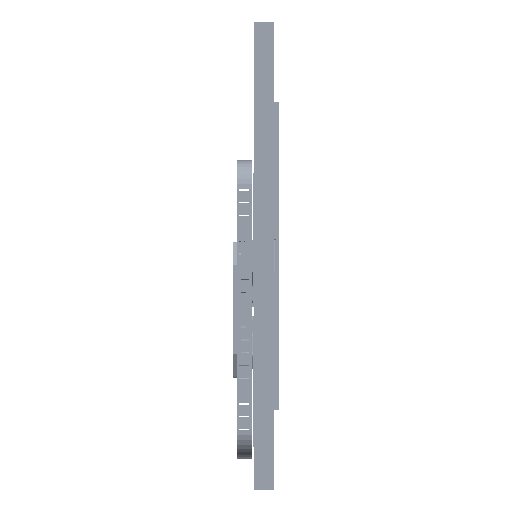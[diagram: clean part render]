
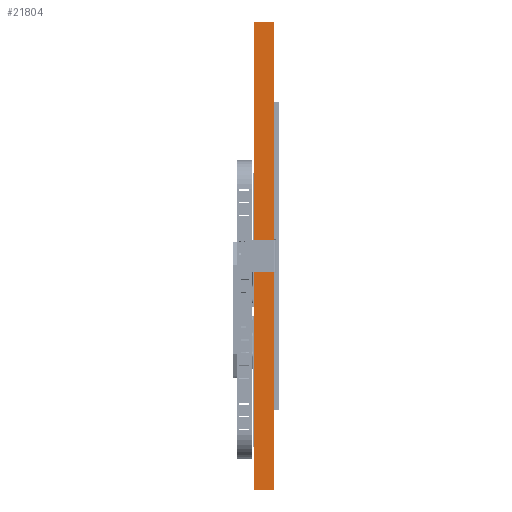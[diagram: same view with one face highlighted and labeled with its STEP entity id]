
A CAD part, left-side view. The second image highlights one B-rep face of the part: STEP entity #21804.
In plain terms, the highlighted planar face has unit normal (-1, 0, 0) as drawn and (0, -1, 0) by its records, which use the part's own axes.
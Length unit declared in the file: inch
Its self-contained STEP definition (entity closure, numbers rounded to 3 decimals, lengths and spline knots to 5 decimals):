
#21804 = ADVANCED_FACE ( 'NONE', ( #55490 ), #55471, .F. ) ;
#21807 = ORIENTED_EDGE ( 'NONE', *, *, #22325, .F. ) ;
#21808 = ORIENTED_EDGE ( 'NONE', *, *, #73076, .T. ) ;
#21809 = EDGE_CURVE ( 'NONE', #72650, #21902, #55591, .T. ) ;
#21902 = VERTEX_POINT ( 'NONE', #55537 ) ;
#21907 = VERTEX_POINT ( 'NONE', #55401 ) ;
#21989 = EDGE_CURVE ( 'NONE', #72898, #21907, #56879, .T. ) ;
#21990 = ORIENTED_EDGE ( 'NONE', *, *, #21809, .T. ) ;
#22030 = EDGE_LOOP ( 'NONE', ( #21990, #21807, #22331, #21808 ) ) ;
#22325 = EDGE_CURVE ( 'NONE', #21907, #21902, #56200, .T. ) ;
#22331 = ORIENTED_EDGE ( 'NONE', *, *, #21989, .F. ) ;
#55249 = DIRECTION ( 'NONE',  ( 1., 0., 0. ) ) ;
#55252 = CARTESIAN_POINT ( 'NONE',  ( -0.625, 0., -14.4 ) ) ;
#55307 = DIRECTION ( 'NONE',  ( -1., 0., 0. ) ) ;
#55309 = DIRECTION ( 'NONE',  ( 0., 1., 0. ) ) ;
#55310 = CARTESIAN_POINT ( 'NONE',  ( -0.625, 0., 14.4 ) ) ;
#55401 = CARTESIAN_POINT ( 'NONE',  ( 0.625, 0., 14.4 ) ) ;
#55447 = VECTOR ( 'NONE', #55249, 39.37008 ) ;
#55471 = PLANE ( 'NONE',  #55634 ) ;
#55490 = FACE_OUTER_BOUND ( 'NONE', #22030, .T. ) ;
#55537 = CARTESIAN_POINT ( 'NONE',  ( 0.625, 0., -14.4 ) ) ;
#55591 = LINE ( 'NONE', #55252, #55447 ) ;
#55634 = AXIS2_PLACEMENT_3D ( 'NONE', #55310, #55309, #55307 ) ;
#56182 = DIRECTION ( 'NONE',  ( 0., 0., -1. ) ) ;
#56184 = VECTOR ( 'NONE', #56182, 39.37008 ) ;
#56185 = CARTESIAN_POINT ( 'NONE',  ( 0.625, 0., 14.4 ) ) ;
#56200 = LINE ( 'NONE', #56185, #56184 ) ;
#56876 = DIRECTION ( 'NONE',  ( 1., 0., 0. ) ) ;
#56877 = VECTOR ( 'NONE', #56876, 39.37008 ) ;
#56878 = CARTESIAN_POINT ( 'NONE',  ( -0.625, 0., 14.4 ) ) ;
#56879 = LINE ( 'NONE', #56878, #56877 ) ;
#68771 = CARTESIAN_POINT ( 'NONE',  ( -0.625, 0., -14.4 ) ) ;
#69102 = CARTESIAN_POINT ( 'NONE',  ( -0.625, 0., 14.4 ) ) ;
#69966 = DIRECTION ( 'NONE',  ( 0., 0., -1. ) ) ;
#69968 = VECTOR ( 'NONE', #69966, 39.37008 ) ;
#69992 = CARTESIAN_POINT ( 'NONE',  ( -0.625, 0., 14.4 ) ) ;
#69993 = LINE ( 'NONE', #69992, #69968 ) ;
#72650 = VERTEX_POINT ( 'NONE', #68771 ) ;
#72898 = VERTEX_POINT ( 'NONE', #69102 ) ;
#73076 = EDGE_CURVE ( 'NONE', #72898, #72650, #69993, .T. ) ;
